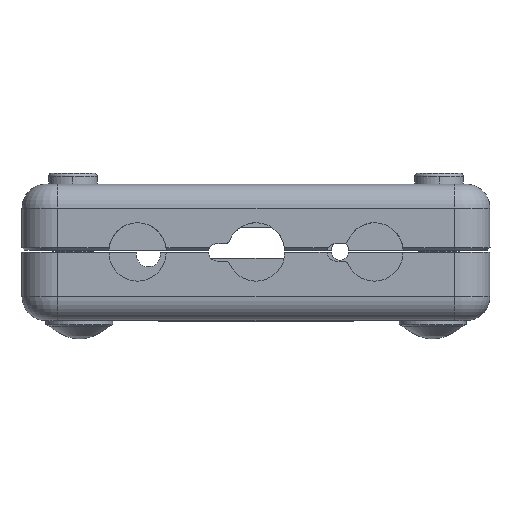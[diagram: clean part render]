
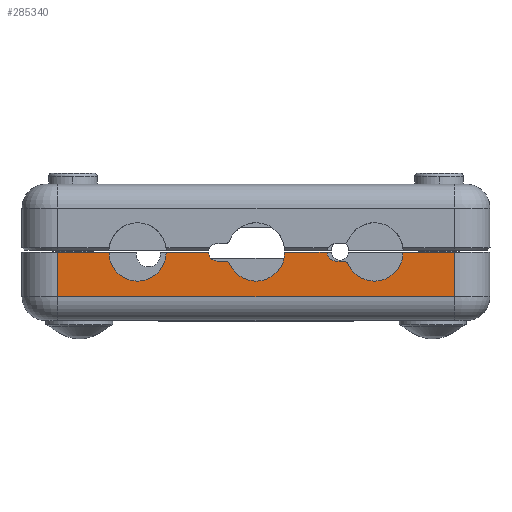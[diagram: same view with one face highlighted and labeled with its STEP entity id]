
A CAD part, left-side view. The second image highlights one B-rep face of the part: STEP entity #285340.
In plain terms, the highlighted planar face has unit normal (-1, 0, 0).
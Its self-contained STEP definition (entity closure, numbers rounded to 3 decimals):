
#274960=CARTESIAN_POINT('',(-2.311,2.022,
0.996));
#274970=VERTEX_POINT('',#274960);
#275000=CARTESIAN_POINT('',(-2.311,2.022,
-0.699));
#275010=DIRECTION('',(0.,0.,-1.));
#275020=VECTOR('',#275010,1.);
#275030=LINE('',#275000,#275020);
#275040=CARTESIAN_POINT('',(-2.311,2.022,
6.215));
#275050=VERTEX_POINT('',#275040);
#275060=EDGE_CURVE('',#275050,#274970,#275030,.T.);
#275370=CARTESIAN_POINT('',(-2.311,42.748,6.215))
;
#275380=VERTEX_POINT('',#275370);
#275540=CARTESIAN_POINT('',(-2.311,35.992,6.215))
;
#275550=VERTEX_POINT('',#275540);
#275580=CARTESIAN_POINT('',(-2.311,39.37,6.215));
#275590=DIRECTION('',(-1.,0.,0.));
#275600=DIRECTION('',(0.,-1.,0.));
#275610=AXIS2_PLACEMENT_3D('',#275580,#275590,#275600);
#275620=CIRCLE('',#275610,3.378);
#275630=EDGE_CURVE('',#275380,#275550,#275620,.T.);
#284110=CARTESIAN_POINT('',(-2.311,52.07,-0.699))
;
#284120=DIRECTION('',(1.,-0.,0.));
#284130=DIRECTION('',(0.,1.,0.));
#284140=AXIS2_PLACEMENT_3D('',#284110,#284120,#284130);
#284150=PLANE('',#284140);
#284160=CARTESIAN_POINT('',(-2.311,25.4,6.215));
#284170=DIRECTION('',(0.,1.,0.));
#284180=VECTOR('',#284170,1.);
#284190=LINE('',#284160,#284180);
#284200=CARTESIAN_POINT('',(-2.311,48.778,6.215))
;
#284210=VERTEX_POINT('',#284200);
#284220=EDGE_CURVE('',#275380,#284210,#284190,.T.);
#284230=ORIENTED_EDGE('',*,*,#284220,.T.);
#284240=ORIENTED_EDGE('',*,*,#275630,.F.);
#284250=CARTESIAN_POINT('',(-2.311,25.4,6.215));
#284260=DIRECTION('',(0.,1.,0.));
#284270=VECTOR('',#284260,1.);
#284280=LINE('',#284250,#284270);
#284290=CARTESIAN_POINT('',(-2.311,30.988,6.215));
#284300=VERTEX_POINT('',#284290);
#284310=EDGE_CURVE('',#284300,#275550,#284280,.T.);
#284320=ORIENTED_EDGE('',*,*,#284310,.T.);
#284330=CARTESIAN_POINT('',(-2.311,29.972,6.215));
#284340=DIRECTION('',(-1.,0.,0.));
#284350=DIRECTION('',(0.,-1.,0.));
#284360=AXIS2_PLACEMENT_3D('',#284330,#284340,#284350);
#284370=CIRCLE('',#284360,1.016);
#284380=CARTESIAN_POINT('',(-2.311,29.972,5.199));
#284390=VERTEX_POINT('',#284380);
#284400=EDGE_CURVE('',#284300,#284390,#284370,.T.);
#284410=ORIENTED_EDGE('',*,*,#284400,.F.);
#284420=CARTESIAN_POINT('',(-2.311,25.4,5.199));
#284430=DIRECTION('',(0.,-1.,0.));
#284440=VECTOR('',#284430,1.);
#284450=LINE('',#284420,#284440);
#284460=CARTESIAN_POINT('',(-2.311,29.058,
5.199));
#284470=VERTEX_POINT('',#284460);
#284480=EDGE_CURVE('',#284390,#284470,#284450,.T.);
#284490=ORIENTED_EDGE('',*,*,#284480,.F.);
#284500=CARTESIAN_POINT('',(-2.311,29.058,
4.564));
#284510=DIRECTION('',(-1.,0.,0.));
#284520=DIRECTION('',(0.,-1.,0.));
#284530=AXIS2_PLACEMENT_3D('',#284500,#284510,#284520);
#284540=CIRCLE('',#284530,0.635);
#284550=CARTESIAN_POINT('',(-2.311,28.479,
4.825));
#284560=VERTEX_POINT('',#284550);
#284570=EDGE_CURVE('',#284560,#284470,#284540,.T.);
#284580=ORIENTED_EDGE('',*,*,#284570,.T.);
#284590=CARTESIAN_POINT('',(-2.311,25.4,6.215));
#284600=DIRECTION('',(-1.,0.,0.));
#284610=DIRECTION('',(0.,-1.,0.));
#284620=AXIS2_PLACEMENT_3D('',#284590,#284600,#284610);
#284630=CIRCLE('',#284620,3.378);
#284640=CARTESIAN_POINT('',(-2.311,22.022,6.215))
;
#284650=VERTEX_POINT('',#284640);
#284660=EDGE_CURVE('',#284560,#284650,#284630,.T.);
#284670=ORIENTED_EDGE('',*,*,#284660,.F.);
#284680=CARTESIAN_POINT('',(-2.311,25.4,6.215));
#284690=DIRECTION('',(0.,1.,0.));
#284700=VECTOR('',#284690,1.);
#284710=LINE('',#284680,#284700);
#284720=CARTESIAN_POINT('',(-2.311,17.018,6.215));
#284730=VERTEX_POINT('',#284720);
#284740=EDGE_CURVE('',#284730,#284650,#284710,.T.);
#284750=ORIENTED_EDGE('',*,*,#284740,.T.);
#284760=CARTESIAN_POINT('',(-2.311,16.002,6.215));
#284770=DIRECTION('',(-1.,0.,0.));
#284780=DIRECTION('',(0.,-1.,0.));
#284790=AXIS2_PLACEMENT_3D('',#284760,#284770,#284780);
#284800=CIRCLE('',#284790,1.016);
#284810=CARTESIAN_POINT('',(-2.311,16.002,5.199));
#284820=VERTEX_POINT('',#284810);
#284830=EDGE_CURVE('',#284730,#284820,#284800,.T.);
#284840=ORIENTED_EDGE('',*,*,#284830,.F.);
#284850=CARTESIAN_POINT('',(-2.311,25.4,5.199));
#284860=DIRECTION('',(0.,-1.,0.));
#284870=VECTOR('',#284860,1.);
#284880=LINE('',#284850,#284870);
#284890=CARTESIAN_POINT('',(-2.311,15.088,
5.199));
#284900=VERTEX_POINT('',#284890);
#284910=EDGE_CURVE('',#284820,#284900,#284880,.T.);
#284920=ORIENTED_EDGE('',*,*,#284910,.F.);
#284930=CARTESIAN_POINT('',(-2.311,15.088,
4.564));
#284940=DIRECTION('',(-1.,0.,0.));
#284950=DIRECTION('',(0.,-1.,0.));
#284960=AXIS2_PLACEMENT_3D('',#284930,#284940,#284950);
#284970=CIRCLE('',#284960,0.635);
#284980=CARTESIAN_POINT('',(-2.311,14.509,
4.825));
#284990=VERTEX_POINT('',#284980);
#285000=EDGE_CURVE('',#284990,#284900,#284970,.T.);
#285010=ORIENTED_EDGE('',*,*,#285000,.T.);
#285020=CARTESIAN_POINT('',(-2.311,11.43,6.215));
#285030=DIRECTION('',(-1.,0.,0.));
#285040=DIRECTION('',(0.,-1.,0.));
#285050=AXIS2_PLACEMENT_3D('',#285020,#285030,#285040);
#285060=CIRCLE('',#285050,3.378);
#285070=CARTESIAN_POINT('',(-2.311,8.052,6.215));
#285080=VERTEX_POINT('',#285070);
#285090=EDGE_CURVE('',#284990,#285080,#285060,.T.);
#285100=ORIENTED_EDGE('',*,*,#285090,.F.);
#285110=CARTESIAN_POINT('',(-2.311,25.4,6.215));
#285120=DIRECTION('',(0.,1.,0.));
#285130=VECTOR('',#285120,1.);
#285140=LINE('',#285110,#285130);
#285150=EDGE_CURVE('',#275050,#285080,#285140,.T.);
#285160=ORIENTED_EDGE('',*,*,#285150,.T.);
#285170=ORIENTED_EDGE('',*,*,#275060,.F.);
#285180=CARTESIAN_POINT('',(-2.311,25.4,0.996));
#285190=DIRECTION('',(0.,1.,0.));
#285200=VECTOR('',#285190,1.);
#285210=LINE('',#285180,#285200);
#285220=CARTESIAN_POINT('',(-2.311,48.778,0.996)
);
#285230=VERTEX_POINT('',#285220);
#285240=EDGE_CURVE('',#274970,#285230,#285210,.T.);
#285250=ORIENTED_EDGE('',*,*,#285240,.F.);
#285260=CARTESIAN_POINT('',(-2.311,48.778,-0.699
));
#285270=DIRECTION('',(0.,0.,-1.));
#285280=VECTOR('',#285270,1.);
#285290=LINE('',#285260,#285280);
#285300=EDGE_CURVE('',#284210,#285230,#285290,.T.);
#285310=ORIENTED_EDGE('',*,*,#285300,.T.);
#285320=EDGE_LOOP('',(#285310,#285250,#285170,#285160,#285100,#285010,
#284920,#284840,#284750,#284670,#284580,#284490,#284410,#284320,#284240,
#284230));
#285330=FACE_OUTER_BOUND('',#285320,.T.);
#285340=ADVANCED_FACE('',(#285330),#284150,.F.);
